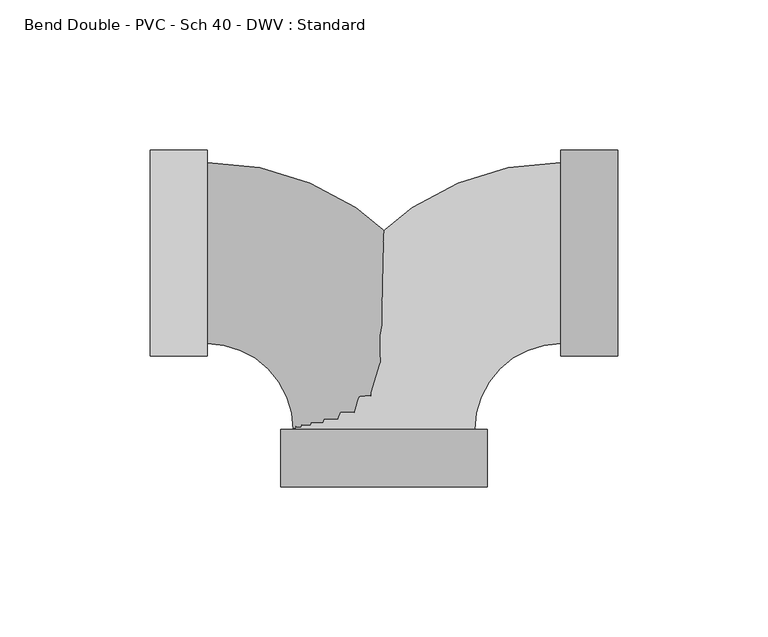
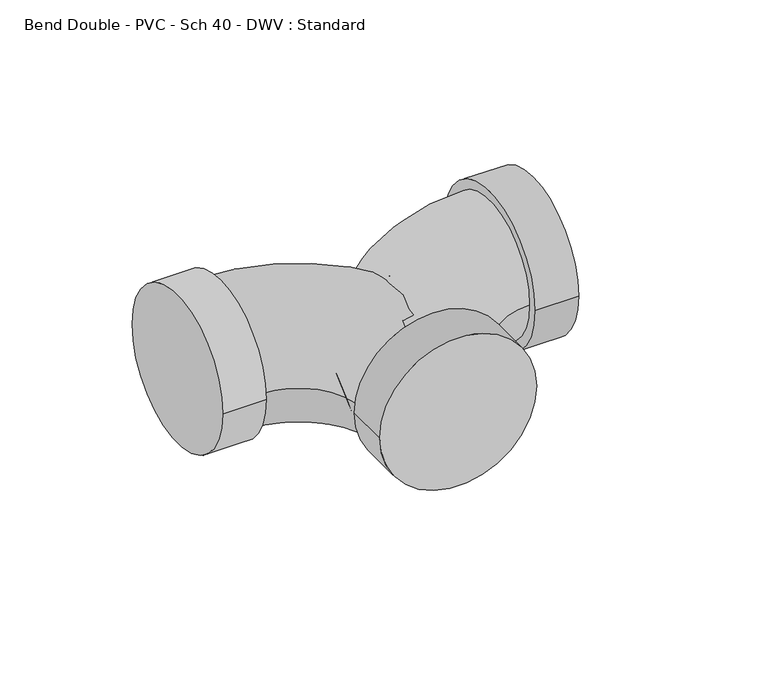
"""IFC4 building model written with IfcOpenShell, lengths in millimetres: pipe fitting geometry, Bend Double - PVC - Sch 40 - DWV : Standard."""

import ifcopenshell
import ifcopenshell.guid

model = None  # the IFC model being written
_history = None  # IfcOwnerHistory: only IFC2X3 demands one
_inside = {}  # id of a spatial element -> (the spatial element, [elements in it])
_under = {}  # id of a project, library or spatial element -> (it, [spatial elements below it])
_declared = {}  # id of a project -> (the project, [libraries it declares])
_typed = {}  # id of a type object -> (the type object, [elements of that type])
_made_of = {}  # id of a material, layer set ... -> (it, [elements and type objects made of it])


def new_model(schema):
    """Start an empty IFC model of exactly this schema.

    Asked for "IFC4X3", IfcOpenShell would pick the latest addendum, in which some entities
    have other attributes; the version numbers below select the first issue.
    IFC2X3 requires an IfcOwnerHistory on every rooted entity: one is made here for all.
    """
    global model, _history
    if schema == "IFC4X3":
        model = ifcopenshell.file(schema_version=(4, 3, 0, 0))
    else:
        model = ifcopenshell.file(schema=schema)
    _inside.clear()
    _under.clear()
    _declared.clear()
    _typed.clear()
    _made_of.clear()
    _history = None
    if model.schema == "IFC2X3":
        org = make("IfcOrganization", Name="unknown")
        user = make(
            "IfcPersonAndOrganization",
            ThePerson=make("IfcPerson", FamilyName="unknown"),
            TheOrganization=org,
        )
        app = make(
            "IfcApplication",
            ApplicationDeveloper=org,
            Version="unknown",
            ApplicationFullName="unknown",
            ApplicationIdentifier="unknown",
        )
        _history = make(
            "IfcOwnerHistory",
            OwningUser=user,
            OwningApplication=app,
            ChangeAction="ADDED",
            CreationDate=0,
        )
    return model


def make(cls, **values):
    """One entity of the class cls with the attributes given. An attribute that is None is left unset."""
    return model.create_entity(
        cls, **{name: value for name, value in values.items() if value is not None}
    )


def rooted(cls, **values):
    """An entity with a GlobalId (a new one), such as an element, a storey or a relation."""
    return make(cls, GlobalId=ifcopenshell.guid.new(), OwnerHistory=_history, **values)


def si_unit(unit_type, name, prefix=None):
    """IfcSIUnit, for example si_unit("LENGTHUNIT", "METRE", prefix="MILLI")."""
    return make("IfcSIUnit", UnitType=unit_type, Prefix=prefix, Name=name)


def assignment(units):
    """IfcUnitAssignment: the units of a project."""
    return None if units is None else make("IfcUnitAssignment", Units=units)


def point(xyz):
    """IfcCartesianPoint."""
    return None if xyz is None else make("IfcCartesianPoint", Coordinates=xyz)


def direction(xyz):
    """IfcDirection."""
    return None if xyz is None else make("IfcDirection", DirectionRatios=xyz)


def frame(location, z_axis=None, x_axis=None):
    """IfcAxis2Placement3D, a coordinate frame: its origin and axes. An axis left out is left unset."""
    return make(
        "IfcAxis2Placement3D",
        Location=point(location),
        Axis=direction(z_axis),
        RefDirection=direction(x_axis),
    )


def origin():
    """The frame at (0, 0, 0) with its axes left unset."""
    return frame((0.0, 0.0, 0.0))


def place(relative_to, where):
    """IfcLocalPlacement: puts the frame where relative to a parent placement (None: the world)."""
    return make(
        "IfcLocalPlacement", PlacementRelTo=relative_to, RelativePlacement=where
    )


def context(
    kind, dimensions, precision=None, world=None, true_north=None, identifier=None
):
    """IfcGeometricRepresentationContext, for example the 3D "Model" context."""
    return make(
        "IfcGeometricRepresentationContext",
        ContextIdentifier=identifier,
        ContextType=kind,
        CoordinateSpaceDimension=dimensions,
        Precision=precision,
        WorldCoordinateSystem=world,
        TrueNorth=true_north,
    )


def project(units=None, contexts=None):
    """IfcProject with its units and contexts."""
    return rooted(
        "IfcProject",
        Name="project",
        RepresentationContexts=contexts,
        UnitsInContext=assignment(units),
    )


def spatial(cls, under=None, at=None, **own):
    """A site, building, storey or space (cls), placed at a placement, below another one or the project."""
    s = rooted(cls, ObjectPlacement=at, **own)
    if under is not None:
        _under.setdefault(under.id(), (under, []))[1].append(s)
    return s


def circle_curve(where, radius):
    """IfcCircle in the frame where."""
    return make("IfcCircle", Position=where, Radius=radius)


def ellipse_curve(where, semi_axis1, semi_axis2):
    """IfcEllipse in the frame where."""
    return make(
        "IfcEllipse", Position=where, SemiAxis1=semi_axis1, SemiAxis2=semi_axis2
    )


def trimmed(basis, trim1, trim2, sense, master):
    """IfcTrimmedCurve: the piece of a basis curve between two trims."""
    return make(
        "IfcTrimmedCurve",
        BasisCurve=basis,
        Trim1=trim1,
        Trim2=trim2,
        SenseAgreement=sense,
        MasterRepresentation=master,
    )


def shape(context_of_items, identifier, shape_type, items):
    """IfcShapeRepresentation: the items that make up one representation, for example the "Body"."""
    return make(
        "IfcShapeRepresentation",
        ContextOfItems=context_of_items,
        RepresentationIdentifier=identifier,
        RepresentationType=shape_type,
        Items=items,
    )


def source(mapping_origin, context_of_items, identifier, shape_type, items):
    """IfcRepresentationMap: a shape defined once, which mapped items show again and again."""
    return make(
        "IfcRepresentationMap",
        MappingOrigin=mapping_origin,
        MappedRepresentation=shape(context_of_items, identifier, shape_type, items),
    )


def transform(
    local_origin,
    x_axis=None,
    y_axis=None,
    z_axis=None,
    scale=None,
    scale2=None,
    scale3=None,
    uniform=True,
):
    """IfcCartesianTransformationOperator3D, or its non-uniform kind. x_axis, y_axis, z_axis: its Axis1, 2, 3."""
    if uniform:
        return make(
            "IfcCartesianTransformationOperator3D",
            Axis1=direction(x_axis),
            Axis2=direction(y_axis),
            LocalOrigin=point(local_origin),
            Scale=scale,
            Axis3=direction(z_axis),
        )
    return make(
        "IfcCartesianTransformationOperator3DnonUniform",
        Axis1=direction(x_axis),
        Axis2=direction(y_axis),
        LocalOrigin=point(local_origin),
        Scale=scale,
        Axis3=direction(z_axis),
        Scale2=scale2,
        Scale3=scale3,
    )


def mapped(mapping_source, mapping_target):
    """IfcMappedItem: shows the shape of a source again, moved by a transform."""
    return make(
        "IfcMappedItem", MappingSource=mapping_source, MappingTarget=mapping_target
    )


def made_of(thing, what):
    """Note that an element or type object is made of a material, layer set ...; save() writes the relation."""
    if what is not None:
        _made_of.setdefault(what.id(), (what, []))[1].append(thing)
    return thing


def element(
    cls,
    number,
    at=None,
    inside=None,
    cuts=None,
    type_object=None,
    material=None,
    context=None,
    identifier="Body",
    shape_type=None,
    held_by="IfcProductDefinitionShape",
    body=None,
    shapes=None,
    **own,
):
    """One element of the class cls, such as IfcWall. Its Tag is "e" and its number.

    at: its placement. inside: the storey or other place that contains it. cuts: it is an
    opening in that element (IfcRelVoidsElement). A single representation is given by context,
    identifier, shape_type and body (its items); several are given by shapes. held_by: the class
    of the entity that holds the representations. save() writes the other relations.
    """
    e = rooted(cls, Tag="e%d" % number, ObjectPlacement=at, **own)
    if body is not None:
        shapes = [shape(context, identifier, shape_type, body)]
    if shapes is not None:
        e.Representation = make(held_by, Representations=shapes)
    if inside is not None:
        _inside.setdefault(inside.id(), (inside, []))[1].append(e)
    if cuts is not None:
        rooted(
            "IfcRelVoidsElement", RelatingBuildingElement=cuts, RelatedOpeningElement=e
        )
    if type_object is not None:
        _typed.setdefault(type_object.id(), (type_object, []))[1].append(e)
    return made_of(e, material)


def aggregate(whole, parts):
    """IfcRelAggregates: a whole, such as a stair, and the parts it consists of."""
    return rooted("IfcRelAggregates", RelatingObject=whole, RelatedObjects=parts)


def save(model, path):
    """Write the relations noted so far, then the file.

    IfcRelAggregates (storeys below a building ...), IfcRelContainedInSpatialStructure (elements
    in a storey), IfcRelDefinesByType, IfcRelAssociatesMaterial and IfcRelDeclares: one each for
    every whole, place, type object, material and project.
    """
    for whole, parts in _under.values():
        aggregate(whole, parts)
    for where, things in _inside.values():
        rooted(
            "IfcRelContainedInSpatialStructure",
            RelatedElements=things,
            RelatingStructure=where,
        )
    for kind, things in _typed.values():
        rooted("IfcRelDefinesByType", RelatedObjects=things, RelatingType=kind)
    for what, things in _made_of.values():
        rooted("IfcRelAssociatesMaterial", RelatedObjects=things, RelatingMaterial=what)
    for by, libraries in _declared.values():
        rooted("IfcRelDeclares", RelatingContext=by, RelatedDefinitions=libraries)
    model.write(path)


def plane_surface(at):
    """IfcPlane: the flat surface through the origin of the frame at, square to its z axis."""
    return make("IfcPlane", Position=at)


def cylinder_surface(at, radius):
    """IfcCylindricalSurface: all points at the distance radius from the z axis of the frame at."""
    return make("IfcCylindricalSurface", Position=at, Radius=radius)


def revolved_surface(curve, axis_point, axis_direction):
    """IfcSurfaceOfRevolution: the curve turned about the line through axis_point along axis_direction."""
    return make(
        "IfcSurfaceOfRevolution",
        SweptCurve=make("IfcArbitraryOpenProfileDef", ProfileType="CURVE", Curve=curve),
        AxisPosition=make("IfcAxis1Placement", Location=point(axis_point), Axis=direction(axis_direction)),
    )


def advanced_brep(points, edges, surfaces, faces):
    """IfcAdvancedBrep: a solid bounded by faces that lie on surfaces and meet in shared edges.

    An edge is (start, end): straight between two places in points (the first is 0);
    or (start, end, curve); or (start, end, curve, False) where it runs against its curve.
    A face is (place in surfaces, loops), or (place, loops, False) where it looks against
    its surface's normal. A loop lists edges by number (the first is 1), with a minus sign
    where the edge is run from its end to its start. The first loop is the outer one.
    """
    corners = [point(p) for p in points]
    vertices = [make("IfcVertexPoint", VertexGeometry=c) for c in corners]
    made = []
    for start, end, *more in edges:
        made.append(
            make(
                "IfcEdgeCurve",
                EdgeStart=vertices[start],
                EdgeEnd=vertices[end],
                EdgeGeometry=more[0] if more else make("IfcPolyline", Points=[corners[start], corners[end]]),
                SameSense=more[1] if len(more) > 1 else True,
            )
        )
    hull = []
    for where, loops, *sense in faces:
        bounds = []
        for j, loop in enumerate(loops):
            ring = [make("IfcOrientedEdge", EdgeElement=made[abs(k) - 1], Orientation=k > 0) for k in loop]
            bounds.append(
                make(
                    "IfcFaceOuterBound" if j == 0 else "IfcFaceBound",
                    Bound=make("IfcEdgeLoop", EdgeList=ring),
                    Orientation=True,
                )
            )
        hull.append(make("IfcAdvancedFace", Bounds=bounds, FaceSurface=surfaces[where], SameSense=sense[0] if sense else True))
    return make("IfcAdvancedBrep", Outer=make("IfcClosedShell", CfsFaces=hull))


def bend_double_pvc_sch_40_dwv_standard_696d5b8f(model_context):
    return source(origin(), model_context, "Body", "AdvancedBrep", [
        advanced_brep(
        [(-30.1625, -58.7502, 0.0), (30.1625, -58.7502, 0.0), (58.7502, -30.1625, 0.0), (58.7502, 30.1625, 0.0), (58.7502, -34.3154, 0.0), (58.7502, 34.3154, 0.0), (77.8002, -34.3154, 0.0), (77.8002, 34.3154, 0.0)],
        [
            (0, 1, circle_curve(frame((0.0, -58.7502, 0.0), z_axis=(0.0, -1.0, 0.0), x_axis=(1.0, 0.0, 0.0)), 30.1625)),
            (1, 0, circle_curve(frame((0.0, -58.7502, 0.0), z_axis=(0.0, -1.0, 0.0), x_axis=(1.0, 0.0, 0.0)), 30.1625)),
            (1, 2, circle_curve(frame((58.7502, -58.7502, 0.0), z_axis=(0.0, 0.0, -1.0), x_axis=(0.0, 1.0, 0.0)), 28.5877)),
            (2, 3, circle_curve(frame((58.7502, 0.0, 0.0), z_axis=(-1.0, 0.0, 0.0), x_axis=(0.0, -1.0, 0.0)), 30.1625)),
            (3, 0, circle_curve(frame((58.7502, -58.7502, 0.0), z_axis=(0.0, 0.0, 1.0), x_axis=(0.0, 1.0, 0.0)), 88.9127)),
            (3, 2, circle_curve(frame((58.7502, 0.0, 0.0), z_axis=(-1.0, 0.0, 0.0), x_axis=(0.0, -1.0, 0.0)), 30.1625)),
            (4, 5, circle_curve(frame((58.7502, 0.0, 0.0), z_axis=(-1.0, 0.0, 0.0), x_axis=(0.0, 1.0, 0.0)), 34.3154)),
            (5, 4, circle_curve(frame((58.7502, 0.0, 0.0), z_axis=(-1.0, 0.0, 0.0), x_axis=(0.0, 1.0, 0.0)), 34.3154)),
            (6, 7, circle_curve(frame((77.8002, 0.0, 0.0), z_axis=(1.0, 0.0, 0.0), x_axis=(0.0, 1.0, 0.0)), 34.3154)),
            (7, 6, circle_curve(frame((77.8002, 0.0, 0.0), z_axis=(1.0, 0.0, 0.0), x_axis=(0.0, 1.0, 0.0)), 34.3154)),
            (4, 6),
            (7, 5),
        ],
        [
            plane_surface(frame((0.0, -58.7502, 0.0), z_axis=(0.0, -1.0, 0.0), x_axis=(0.0, 0.0, 1.0))),
            revolved_surface(trimmed(ellipse_curve(frame((58.7502, 0.0, 0.0), z_axis=(1.0, 0.0, 0.0), x_axis=(0.0, -1.0, 0.0)), 30.1625, 30.1625), [point((58.7502, 30.1625, 0.0))], [point((58.7502, -30.1625, 0.0))], True, "CARTESIAN"), (58.7502, -58.7502, 0.0), (0.0, 0.0, 1.0)),
            revolved_surface(trimmed(ellipse_curve(frame((58.7502, 0.0, 0.0), z_axis=(1.0, 0.0, 0.0), x_axis=(0.0, -1.0, 0.0)), 30.1625, 30.1625), [point((58.7502, -30.1625, 0.0))], [point((58.7502, 30.1625, 0.0))], True, "CARTESIAN"), (58.7502, -58.7502, 0.0), (0.0, 0.0, 1.0)),
            plane_surface(frame((58.7502, 0.0, 0.0), z_axis=(-1.0, 0.0, 0.0), x_axis=(0.0, 0.0, 1.0))),
            plane_surface(frame((77.8002, 0.0, 0.0), z_axis=(1.0, 0.0, 0.0), x_axis=(0.0, 0.0, 1.0))),
            cylinder_surface(frame((58.7502, 0.0, 0.0), z_axis=(-1.0, 0.0, 0.0), x_axis=(0.0, 1.0, 0.0)), 34.3154),
        ],
        [
            (0, [[1, 2]]),
            (1, [[-2, 3, 4, 5]]),
            (2, [[-1, -5, 6, -3]]),
            (3, [[7, 8], [-4, -6]]),
            (4, [[9, 10]]),
            (5, [[-7, 11, -10, 12]]),
            (5, [[-8, -12, -9, -11]]),
        ],
    ),
        advanced_brep(
        [(30.1625, -58.7502, 0.0), (-58.7502, 30.1625, 0.0), (-58.7502, -30.1625, 0.0), (-30.1625, -58.7502, 0.0), (-58.7502, 34.3154, 0.0), (-58.7502, -34.3154, 0.0), (-77.8002, 34.3154, 0.0), (-77.8002, -34.3154, 0.0), (-34.3154, -58.7502, 0.0), (34.3154, -58.7502, 0.0), (-34.3154, -77.8002, 0.0), (34.3154, -77.8002, 0.0)],
        [
            (0, 1, circle_curve(frame((-58.7502, -58.7502, 0.0), z_axis=(0.0, 0.0, 1.0), x_axis=(0.0, 1.0, 0.0)), 88.9127)),
            (1, 2, circle_curve(frame((-58.7502, 0.0, 0.0), z_axis=(1.0, 0.0, 0.0), x_axis=(0.0, 1.0, 0.0)), 30.1625)),
            (2, 3, circle_curve(frame((-58.7502, -58.7502, 0.0), z_axis=(0.0, 0.0, -1.0), x_axis=(0.0, 1.0, 0.0)), 28.5877)),
            (3, 0, circle_curve(frame((0.0, -58.7502, 0.0), z_axis=(0.0, 1.0, 0.0), x_axis=(1.0, 0.0, 0.0)), 30.1625)),
            (0, 3, circle_curve(frame((0.0, -58.7502, 0.0), z_axis=(0.0, 1.0, 0.0), x_axis=(1.0, 0.0, 0.0)), 30.1625)),
            (2, 1, circle_curve(frame((-58.7502, 0.0, 0.0), z_axis=(1.0, 0.0, 0.0), x_axis=(0.0, 1.0, 0.0)), 30.1625)),
            (4, 5, circle_curve(frame((-58.7502, 0.0, 0.0), z_axis=(1.0, 0.0, 0.0), x_axis=(0.0, -1.0, 0.0)), 34.3154)),
            (5, 4, circle_curve(frame((-58.7502, 0.0, 0.0), z_axis=(1.0, 0.0, 0.0), x_axis=(0.0, -1.0, 0.0)), 34.3154)),
            (6, 7, circle_curve(frame((-77.8002, 0.0, 0.0), z_axis=(-1.0, 0.0, 0.0), x_axis=(0.0, -1.0, 0.0)), 34.3154)),
            (7, 6, circle_curve(frame((-77.8002, 0.0, 0.0), z_axis=(-1.0, 0.0, 0.0), x_axis=(0.0, -1.0, 0.0)), 34.3154)),
            (4, 6),
            (7, 5),
            (8, 9, circle_curve(frame((0.0, -58.7502, 0.0), z_axis=(0.0, 1.0, 0.0), x_axis=(1.0, 0.0, 0.0)), 34.3154)),
            (9, 8, circle_curve(frame((0.0, -58.7502, 0.0), z_axis=(0.0, 1.0, 0.0), x_axis=(1.0, 0.0, 0.0)), 34.3154)),
            (10, 11, circle_curve(frame((0.0, -77.8002, 0.0), z_axis=(0.0, -1.0, 0.0), x_axis=(1.0, 0.0, 0.0)), 34.3154)),
            (11, 10, circle_curve(frame((0.0, -77.8002, 0.0), z_axis=(0.0, -1.0, 0.0), x_axis=(1.0, 0.0, 0.0)), 34.3154)),
            (8, 10),
            (11, 9),
        ],
        [
            revolved_surface(trimmed(ellipse_curve(frame((-58.7502, 0.0, 0.0), z_axis=(-1.0, 0.0, 0.0), x_axis=(0.0, 1.0, 0.0)), 30.1625, 30.1625), [point((-58.7502, -30.1625, 0.0))], [point((-58.7502, 30.1625, 0.0))], True, "CARTESIAN"), (-58.7502, -58.7502, 0.0), (0.0, 0.0, -1.0)),
            revolved_surface(trimmed(ellipse_curve(frame((-58.7502, 0.0, 0.0), z_axis=(-1.0, 0.0, 0.0), x_axis=(0.0, 1.0, 0.0)), 30.1625, 30.1625), [point((-58.7502, 30.1625, 0.0))], [point((-58.7502, -30.1625, 0.0))], True, "CARTESIAN"), (-58.7502, -58.7502, 0.0), (0.0, 0.0, -1.0)),
            plane_surface(frame((-58.7502, 0.0, 0.0), z_axis=(1.0, 0.0, 0.0), x_axis=(0.0, 0.0, 1.0))),
            plane_surface(frame((-77.8002, 0.0, 0.0), z_axis=(-1.0, 0.0, 0.0), x_axis=(0.0, 0.0, 1.0))),
            cylinder_surface(frame((-58.7502, 0.0, 0.0), z_axis=(1.0, 0.0, 0.0), x_axis=(0.0, -1.0, 0.0)), 34.3154),
            plane_surface(frame((0.0, -58.7502, 0.0), z_axis=(0.0, 1.0, 0.0), x_axis=(0.0, 0.0, 1.0))),
            plane_surface(frame((0.0, -77.8002, 0.0), z_axis=(0.0, -1.0, 0.0), x_axis=(0.0, 0.0, 1.0))),
            cylinder_surface(frame((0.0, -58.7502, 0.0), z_axis=(0.0, 1.0, 0.0), x_axis=(1.0, 0.0, 0.0)), 34.3154),
        ],
        [
            (0, [[1, 2, 3, 4]]),
            (1, [[-1, 5, -3, 6]]),
            (2, [[7, 8], [-2, -6]]),
            (3, [[9, 10]]),
            (4, [[-7, 11, -10, 12]]),
            (4, [[-8, -12, -9, -11]]),
            (5, [[13, 14], [-4, -5]]),
            (6, [[15, 16]]),
            (7, [[-13, 17, -16, 18]]),
            (7, [[-14, -18, -15, -17]]),
        ],
    ),
    ])


if __name__ == "__main__":
    model = new_model("IFC4")
    model_context = context("Model", 3, world=origin())
    ifc_project = project(units=[si_unit("LENGTHUNIT", "METRE", prefix="MILLI")], contexts=[model_context])
    site = spatial("IfcSite", under=ifc_project)
    building = spatial("IfcBuilding", under=site)
    placement = place(None, origin())
    bend_double_pvc_sch_40_dwv_standard_shape = bend_double_pvc_sch_40_dwv_standard_696d5b8f(model_context)
    element("IfcPipeFitting", 1, ObjectType="Bend Double - PVC - Sch 40 - DWV : Standard", at=placement, inside=building, context=model_context, shape_type="MappedRepresentation", body=[
        mapped(bend_double_pvc_sch_40_dwv_standard_shape, transform((0.0, 0.0, 0.0), x_axis=(1.0, 0.0, 0.0), y_axis=(0.0, 1.0, 0.0), z_axis=(0.0, 0.0, 1.0))),
    ])
    save(model, "model.ifc")
